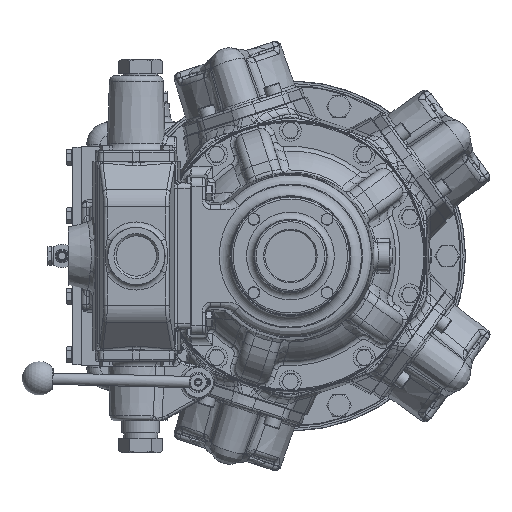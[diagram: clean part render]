
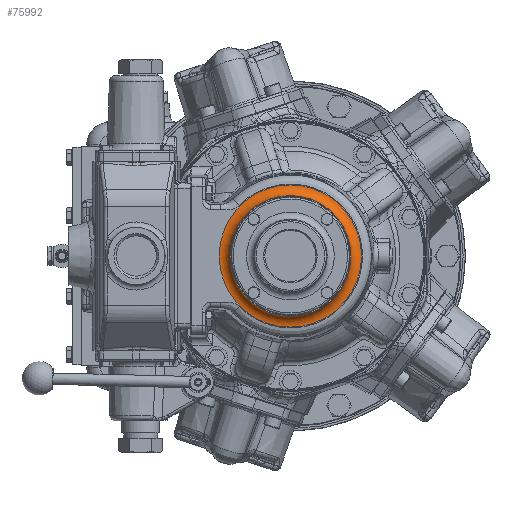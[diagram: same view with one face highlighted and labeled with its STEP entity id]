
A CAD part, left-side view. The second image highlights one B-rep face of the part: STEP entity #75992.
In plain terms, the highlighted toroidal (fillet/blend) face has major radius 79.318 mm and minor radius 12 mm.
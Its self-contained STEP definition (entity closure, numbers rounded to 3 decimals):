
#17460 = CARTESIAN_POINT ( 'NONE',  ( -302.86, 0., 0. ) ) ;
#41080 = DIRECTION ( 'NONE',  ( 0., 0., -1. ) ) ;
#47607 = CIRCLE ( 'NONE', #191450, 67.322 ) ;
#55036 = DIRECTION ( 'NONE',  ( 1., 0., 0. ) ) ;
#58430 = AXIS2_PLACEMENT_3D ( 'NONE', #188149, #205244, #41080 ) ;
#69901 = FACE_OUTER_BOUND ( 'NONE', #209718, .T. ) ;
#75992 = ADVANCED_FACE ( 'NONE', ( #69901, #196608 ), #155293, .F. ) ;
#82846 = DIRECTION ( 'NONE',  ( 1., 0., 0. ) ) ;
#111129 = EDGE_CURVE ( 'NONE', #154365, #154365, #151108, .T. ) ;
#131106 = DIRECTION ( 'NONE',  ( 0., 0., -1. ) ) ;
#137803 = VERTEX_POINT ( 'NONE', #187152 ) ;
#151108 = CIRCLE ( 'NONE', #58430, 79.318 ) ;
#152652 = DIRECTION ( 'NONE',  ( 0., 0., -1. ) ) ;
#153410 = ORIENTED_EDGE ( 'NONE', *, *, #111129, .T. ) ;
#153919 = EDGE_LOOP ( 'NONE', ( #153410 ) ) ;
#154365 = VERTEX_POINT ( 'NONE', #168381 ) ;
#155293 = TOROIDAL_SURFACE ( 'NONE', #175849, 79.318, 12. ) ;
#168381 = CARTESIAN_POINT ( 'NONE',  ( -290.86, 0., -79.318 ) ) ;
#170900 = CARTESIAN_POINT ( 'NONE',  ( -302.546, 0., 0. ) ) ;
#172698 = EDGE_CURVE ( 'NONE', #137803, #137803, #47607, .T. ) ;
#175849 = AXIS2_PLACEMENT_3D ( 'NONE', #17460, #82846, #131106 ) ;
#187152 = CARTESIAN_POINT ( 'NONE',  ( -302.546, 0., -67.322 ) ) ;
#188149 = CARTESIAN_POINT ( 'NONE',  ( -290.86, 0., 0. ) ) ;
#191450 = AXIS2_PLACEMENT_3D ( 'NONE', #170900, #55036, #152652 ) ;
#194144 = ORIENTED_EDGE ( 'NONE', *, *, #172698, .T. ) ;
#196608 = FACE_OUTER_BOUND ( 'NONE', #153919, .T. ) ;
#205244 = DIRECTION ( 'NONE',  ( -1., 0., 0. ) ) ;
#209718 = EDGE_LOOP ( 'NONE', ( #194144 ) ) ;
